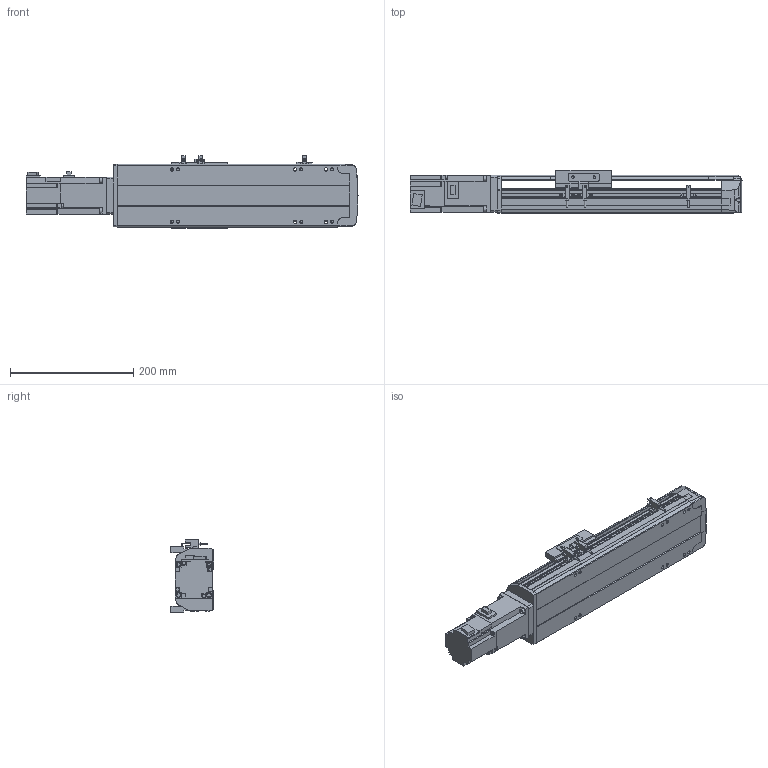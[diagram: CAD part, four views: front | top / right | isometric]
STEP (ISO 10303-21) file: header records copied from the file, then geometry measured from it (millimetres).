
FILE_DESCRIPTION( ( 'STEP AP214' ), '1' );
FILE_NAME( 'x:/temp/worker_13/temp/exporttempdir_3252_142_G7kqZ/format_0/PSS120-L10-S150-BC-T40-C1-N(0).stp', '2022-06-02T00:32:47', ( 'License CC BY-ND 4.0' ), ( 'CADENAS' ), ' ', 'PARTsolutions', ' ' );
FILE_SCHEMA( ( 'AUTOMOTIVE_DESIGN { 1 0 10303 214 1 1 1 1 }' ) );
Length unit declared in the file: millimetre
Products named in the file (8): PSS120-L10-S150-BC-T40-C1-N(0); _PSS120-S150-BC-C1-N_body; _PSS120-N_Q; _PSS120-BC-C1-N_sl; _PSS120-N_sensor; _PSS120BC-N_h; _T40-p1; _PSS120-S150-BC-N_S
Assembly tree (9 placements, depth 2):
  PSS120-L10-S150-BC-T40-C1-N(0)
    _PSS120-S150-BC-C1-N_body
    _PSS120-N_Q
    _PSS120-BC-C1-N_sl
    _PSS120-N_sensor  x3
    _PSS120BC-N_h
    _T40-p1
    _PSS120-S150-BC-N_S
Bounding box: 538.7 x 70 x 117.7 mm (x, y, z)
Volume: 1826153.4 mm3; surface area: 342474.7 mm2
Topology: 9 solids, 9 shells, 785 faces, 2104 edges, 1396 vertices
Faces by surface type: plane 541, cylinder 226, cone 18
Full cylindrical faces by diameter (mm): 2.8 x3, 4 x4, 4.134 x10, 4.2 x4, 4.4 x2, 4.5 x4, 4.6 x3, 4.917 x4, 5 x6, 5.5 x13, 7 x2, 8 x8, 8.5 x10, 14 x1, 28 x1, 32 x1, 50 x1
Entity records: 26741 total; most frequent: CARTESIAN_POINT 4082, DIRECTION 3525, ORIENTED_EDGE 3430, EDGE_CURVE 1715, LINE 1223, VECTOR 1223, VERTEX_POINT 1190, AXIS2_PLACEMENT_3D 1151
